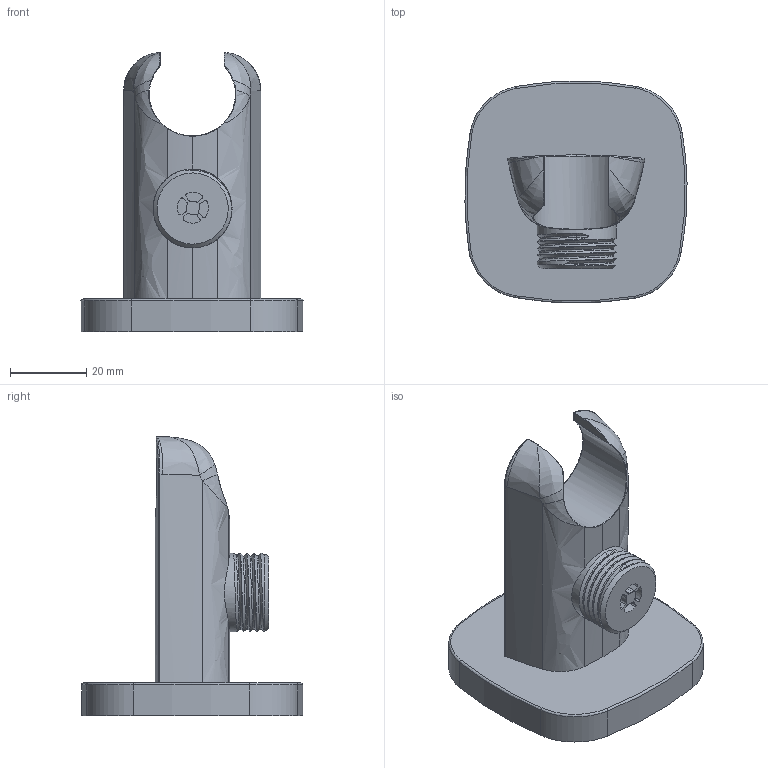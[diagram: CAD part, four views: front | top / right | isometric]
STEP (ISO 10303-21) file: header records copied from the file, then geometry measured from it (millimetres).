
FILE_DESCRIPTION(/* description */ (''),/* implementation_level */ '2;1');
FILE_NAME(/* name */ 'c:\worker\convert-fusion-r09\tmp\job-1\73\output\files\a831173c-8174-490e-a35a-300537b5078a\6b1ffb71-ae69-4442-a188-00e4b1de57de.zip.stp',/* time_stamp */ '2019-12-14T16:35:51+00:00',/* author */ (''),/* organization */ (''),/* preprocessor_version */ 'ST-DEVELOPER v18',/* originating_system */ 'Autodesk Translation Framework v8.12.0.6',/* authorisation */ '');
FILE_SCHEMA (('AUTOMOTIVE_DESIGN { 1 0 10303 214 3 1 1 }'));
Length unit declared in the file: millimetre
Products named in the file (1): !8879
Bounding box: 58.31 x 58.18 x 73.3 mm (x, y, z)
Volume: 57993.5 mm3; surface area: 14450.8 mm2
Topology: 1 solids, 1 shells, 129 faces, 319 edges, 193 vertices
Faces by surface type: bspline 103, plane 17, cylinder 7, sphere 2
Entity records: 12026 total; most frequent: CARTESIAN_POINT 9685, ORIENTED_EDGE 630, EDGE_CURVE 315, DIRECTION 231, VERTEX_POINT 193, B_SPLINE_CURVE_WITH_KNOTS 174, EDGE_LOOP 134, FACE_OUTER_BOUND 129
